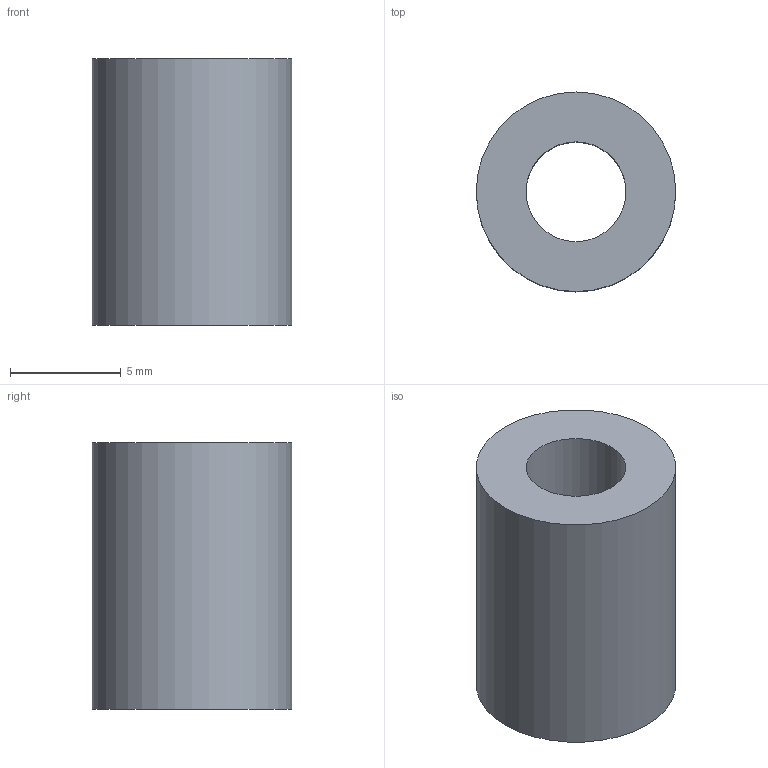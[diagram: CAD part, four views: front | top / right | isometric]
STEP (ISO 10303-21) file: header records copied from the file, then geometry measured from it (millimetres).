
FILE_DESCRIPTION(('Open CASCADE Model'),'2;1');
FILE_NAME('Open CASCADE Shape Model','2026-10-14T15:05:48',('Author'),( 'Open CASCADE'),'Open CASCADE STEP processor 7.8','Open CASCADE 7.8' ,'Unknown');
FILE_SCHEMA(('AUTOMOTIVE_DESIGN { 1 0 10303 214 1 1 1 1 }'));
Length unit declared in the file: millimetre
Products named in the file (1): Open CASCADE STEP translator 7.8 10
Bounding box: 9 x 9 x 12 mm (x, y, z)
Volume: 572.6 mm3; surface area: 604.4 mm2
Topology: 1 solids, 1 shells, 4 faces, 6 edges, 4 vertices
Faces by surface type: cylinder 2, plane 2
Full cylindrical faces by diameter (mm): 4.5 x1, 9 x1
Entity records: 186 total; most frequent: DIRECTION 32, CARTESIAN_POINT 27, ORIENTED_EDGE 12, PCURVE 12, DEFINITIONAL_REPRESENTATION 12, LINE 10, VECTOR 10, AXIS2_PLACEMENT_3D 9
